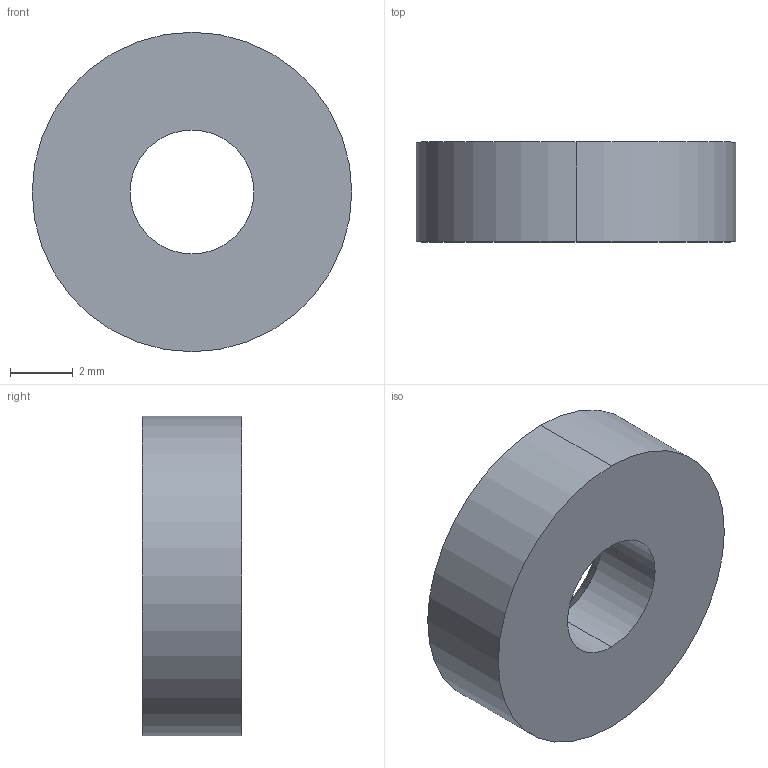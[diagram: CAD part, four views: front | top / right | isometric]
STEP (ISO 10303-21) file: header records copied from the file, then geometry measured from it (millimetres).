
FILE_DESCRIPTION (( 'STEP AP214' ), '1' );
FILE_NAME ('11 - Point Slider Cap (Quantity 5).STEP', '2022-11-25T05:47:17', ( '' ), ( '' ), 'SwSTEP 2.0', 'SolidWorks 2021', '' );
FILE_SCHEMA (( 'AUTOMOTIVE_DESIGN' ));
Length unit declared in the file: inch
Products named in the file (1): 11 - Point Slider Cap (Quantity 5)
Bounding box: 10.16 x 3.17 x 10.16 mm (x, y, z)
Volume: 214.3 mm3; surface area: 273.5 mm2
Topology: 1 solids, 1 shells, 8 faces, 16 edges, 10 vertices
Faces by surface type: cylinder 4, cone 2, plane 2
Entity records: 258 total; most frequent: DIRECTION 44, CARTESIAN_POINT 35, ORIENTED_EDGE 32, AXIS2_PLACEMENT_3D 19, EDGE_CURVE 16, VERTEX_POINT 10, CIRCLE 10, EDGE_LOOP 10
